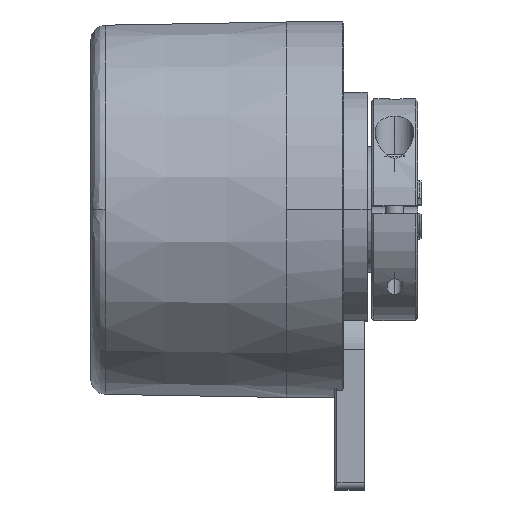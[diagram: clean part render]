
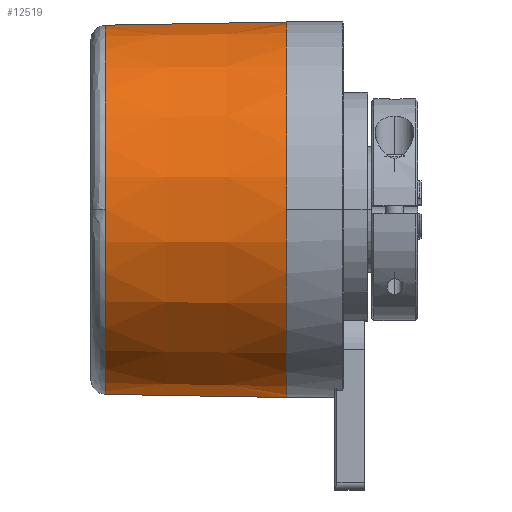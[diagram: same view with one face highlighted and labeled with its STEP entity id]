
A CAD part, top view. The second image highlights one B-rep face of the part: STEP entity #12519.
In plain terms, the highlighted conical face has half-angle 1 degrees and reference radius 25.4 mm.
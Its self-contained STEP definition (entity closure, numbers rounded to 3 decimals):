
#5 = VECTOR ( 'NONE', #1511, 1000. ) ;
#458 = AXIS2_PLACEMENT_3D ( 'NONE', #3180, #15158, #2581 ) ;
#569 = VERTEX_POINT ( 'NONE', #10489 ) ;
#632 = EDGE_CURVE ( 'NONE', #569, #13401, #14818, .T. ) ;
#940 = VERTEX_POINT ( 'NONE', #8445 ) ;
#1377 = VERTEX_POINT ( 'NONE', #12502 ) ;
#1493 = EDGE_CURVE ( 'NONE', #1377, #13523, #4763, .T. ) ;
#1511 = DIRECTION ( 'NONE',  ( 1., -0.017, 0. ) ) ;
#2112 = ORIENTED_EDGE ( 'NONE', *, *, #5441, .T. ) ;
#2213 = DIRECTION ( 'NONE',  ( 0., 1., 0. ) ) ;
#2564 = FACE_OUTER_BOUND ( 'NONE', #10150, .T. ) ;
#2581 = DIRECTION ( 'NONE',  ( 0., 0., 1. ) ) ;
#3090 = DIRECTION ( 'NONE',  ( -1., 0., 0. ) ) ;
#3180 = CARTESIAN_POINT ( 'NONE',  ( -19.035, 0., 0. ) ) ;
#3309 = VECTOR ( 'NONE', #11214, 1000. ) ;
#3505 = LINE ( 'NONE', #8158, #5 ) ;
#3968 = CIRCLE ( 'NONE', #5312, 24.972 ) ;
#4542 = ORIENTED_EDGE ( 'NONE', *, *, #5864, .T. ) ;
#4728 = CARTESIAN_POINT ( 'NONE',  ( -19.035, 0., 0. ) ) ;
#4763 = CIRCLE ( 'NONE', #8940, 25.4 ) ;
#5312 = AXIS2_PLACEMENT_3D ( 'NONE', #4728, #14063, #6046 ) ;
#5441 = EDGE_CURVE ( 'NONE', #13401, #940, #3968, .T. ) ;
#5699 = CONICAL_SURFACE ( 'NONE', #14214, 25.4, 0.017 ) ;
#5864 = EDGE_CURVE ( 'NONE', #940, #1377, #3505, .T. ) ;
#6046 = DIRECTION ( 'NONE',  ( 0., 0., 1. ) ) ;
#6420 = ORIENTED_EDGE ( 'NONE', *, *, #632, .T. ) ;
#7369 = ORIENTED_EDGE ( 'NONE', *, *, #14967, .F. ) ;
#7460 = CARTESIAN_POINT ( 'NONE',  ( 5.5, 0., 0. ) ) ;
#8158 = CARTESIAN_POINT ( 'NONE',  ( 5.5, -25.4, 0. ) ) ;
#8445 = CARTESIAN_POINT ( 'NONE',  ( -19.035, -24.972, 0. ) ) ;
#8940 = AXIS2_PLACEMENT_3D ( 'NONE', #14432, #3090, #2213 ) ;
#10150 = EDGE_LOOP ( 'NONE', ( #6420, #2112, #4542, #15898, #7369 ) ) ;
#10452 = LINE ( 'NONE', #12534, #3309 ) ;
#10489 = CARTESIAN_POINT ( 'NONE',  ( -19.035, 24.972, 0. ) ) ;
#11214 = DIRECTION ( 'NONE',  ( 1., 0.017, 0. ) ) ;
#11367 = CARTESIAN_POINT ( 'NONE',  ( 5.5, 25.4, 0. ) ) ;
#12502 = CARTESIAN_POINT ( 'NONE',  ( 5.5, -25.4, 0. ) ) ;
#12519 = ADVANCED_FACE ( 'NONE', ( #2564 ), #5699, .T. ) ;
#12534 = CARTESIAN_POINT ( 'NONE',  ( 5.5, 25.4, 0. ) ) ;
#12888 = DIRECTION ( 'NONE',  ( 1., 0., 0. ) ) ;
#13401 = VERTEX_POINT ( 'NONE', #15238 ) ;
#13523 = VERTEX_POINT ( 'NONE', #11367 ) ;
#14063 = DIRECTION ( 'NONE',  ( 1., 0., 0. ) ) ;
#14214 = AXIS2_PLACEMENT_3D ( 'NONE', #7460, #12888, #14264 ) ;
#14264 = DIRECTION ( 'NONE',  ( 0., 1., 0. ) ) ;
#14432 = CARTESIAN_POINT ( 'NONE',  ( 5.5, 0., 0. ) ) ;
#14818 = CIRCLE ( 'NONE', #458, 24.972 ) ;
#14967 = EDGE_CURVE ( 'NONE', #569, #13523, #10452, .T. ) ;
#15158 = DIRECTION ( 'NONE',  ( 1., 0., 0. ) ) ;
#15238 = CARTESIAN_POINT ( 'NONE',  ( -19.035, 0., 24.972 ) ) ;
#15898 = ORIENTED_EDGE ( 'NONE', *, *, #1493, .T. ) ;
